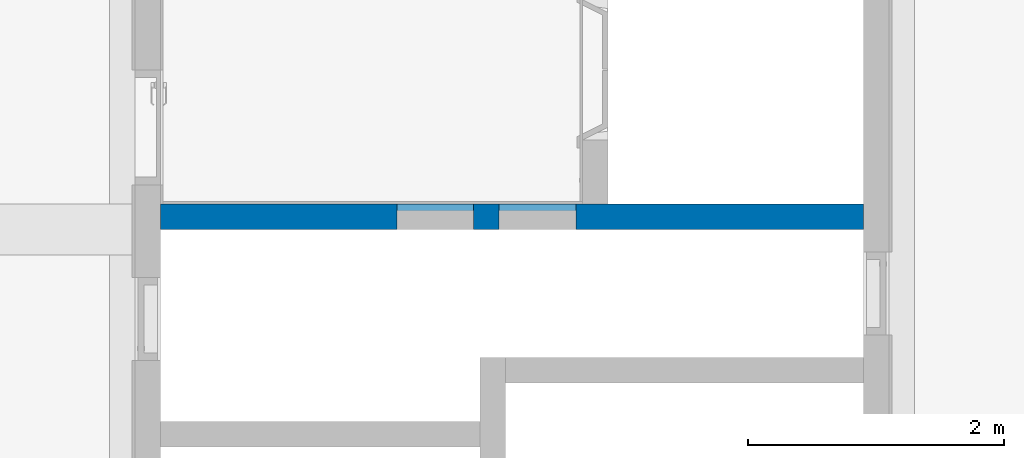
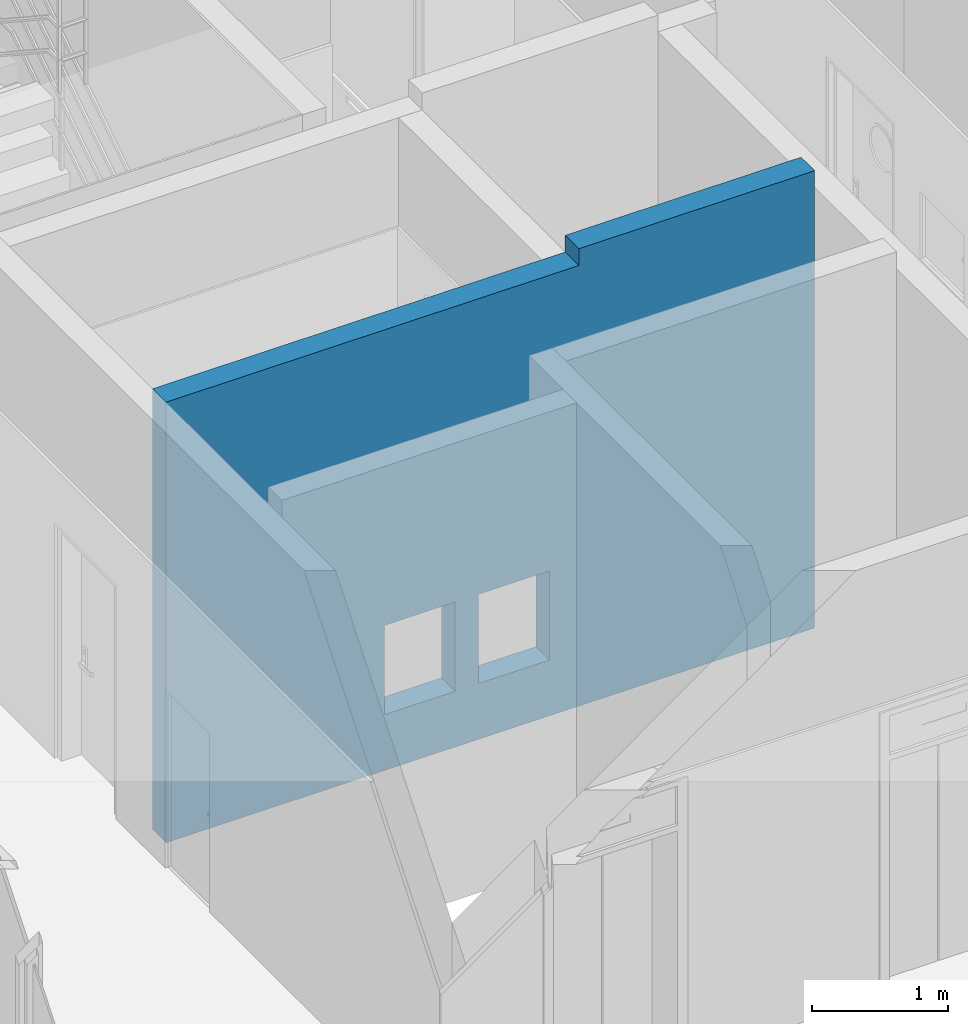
# One storey, part 51 of 76: 1 wall, 2 openings.
"""IFC2X3 building model written with IfcOpenShell, lengths in millimetres."""

from ifc_helpers import new_model, entity, si_unit, converted_unit, derived_unit, direction, frame, frame_2d, origin, place, context, subcontext, project, spatial, polyline, rectangle, extrude, clip, bounded_halfspace, material, layer, layer_set, layer_usage, type_object, element, save


model = new_model("IFC2X3")

# Units and contexts
model_context = context("Model", 3, precision=0.01, world=origin(), true_north=direction((6.123031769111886e-17, 1.0)))
body_context = subcontext(model_context, "Body", "Model", "MODEL_VIEW")
ifc_project = project(units=[si_unit("LENGTHUNIT", "METRE", prefix="MILLI"), si_unit("AREAUNIT", "SQUARE_METRE"), si_unit("VOLUMEUNIT", "CUBIC_METRE"), converted_unit("PLANEANGLEUNIT", "DEGREE", entity("IfcRatioMeasure", 0.017453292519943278), si_unit("PLANEANGLEUNIT", "RADIAN"), dimensions=[0, 0, 0, 0, 0, 0, 0]), si_unit("MASSUNIT", "GRAM", prefix="KILO"), derived_unit("MASSDENSITYUNIT", [(si_unit("MASSUNIT", "GRAM", prefix="KILO"), 1), (si_unit("LENGTHUNIT", "METRE"), -3)]), derived_unit("MOMENTOFINERTIAUNIT", [(si_unit("LENGTHUNIT", "METRE"), 4)]), si_unit("TIMEUNIT", "SECOND"), si_unit("FREQUENCYUNIT", "HERTZ"), si_unit("THERMODYNAMICTEMPERATUREUNIT", "DEGREE_CELSIUS"), derived_unit("THERMALTRANSMITTANCEUNIT", [(si_unit("MASSUNIT", "GRAM", prefix="KILO"), 1), (si_unit("THERMODYNAMICTEMPERATUREUNIT", "KELVIN"), -1), (si_unit("TIMEUNIT", "SECOND"), -3)]), derived_unit("VOLUMETRICFLOWRATEUNIT", [(si_unit("LENGTHUNIT", "METRE"), 3), (si_unit("TIMEUNIT", "SECOND"), -1)]), derived_unit("MASSFLOWRATEUNIT", [(si_unit("MASSUNIT", "GRAM", prefix="KILO"), 1), (si_unit("TIMEUNIT", "SECOND"), -1)]), derived_unit("ROTATIONALFREQUENCYUNIT", [(si_unit("TIMEUNIT", "SECOND"), -1)]), si_unit("ELECTRICCURRENTUNIT", "AMPERE"), si_unit("ELECTRICVOLTAGEUNIT", "VOLT"), si_unit("POWERUNIT", "WATT"), si_unit("FORCEUNIT", "NEWTON", prefix="KILO"), si_unit("ILLUMINANCEUNIT", "LUX"), si_unit("LUMINOUSFLUXUNIT", "LUMEN"), si_unit("LUMINOUSINTENSITYUNIT", "CANDELA"), derived_unit("USERDEFINED", [(si_unit("MASSUNIT", "GRAM", prefix="KILO"), -1), (si_unit("LENGTHUNIT", "METRE"), -2), (si_unit("TIMEUNIT", "SECOND"), 3), (si_unit("LUMINOUSFLUXUNIT", "LUMEN"), 1)]), derived_unit("SOUNDPOWERUNIT", [(si_unit("MASSUNIT", "GRAM", prefix="KILO"), 1), (si_unit("LENGTHUNIT", "METRE"), 2), (si_unit("TIMEUNIT", "SECOND"), -3)]), derived_unit("SOUNDPRESSUREUNIT", [(si_unit("MASSUNIT", "GRAM", prefix="KILO"), 1), (si_unit("LENGTHUNIT", "METRE"), -1), (si_unit("TIMEUNIT", "SECOND"), -2)]), derived_unit("LINEARVELOCITYUNIT", [(si_unit("LENGTHUNIT", "METRE"), 1), (si_unit("TIMEUNIT", "SECOND"), -1)]), si_unit("PRESSUREUNIT", "PASCAL"), derived_unit("USERDEFINED", [(si_unit("LENGTHUNIT", "METRE"), -2), (si_unit("MASSUNIT", "GRAM", prefix="KILO"), 1), (si_unit("TIMEUNIT", "SECOND"), -2)]), derived_unit("LINEARFORCEUNIT", [(si_unit("MASSUNIT", "GRAM", prefix="KILO"), 1), (si_unit("LENGTHUNIT", "METRE"), 1), (si_unit("TIMEUNIT", "SECOND"), -2), (si_unit("LENGTHUNIT", "METRE"), -1)]), derived_unit("PLANARFORCEUNIT", [(si_unit("MASSUNIT", "GRAM", prefix="KILO"), 1), (si_unit("LENGTHUNIT", "METRE"), 1), (si_unit("TIMEUNIT", "SECOND"), -2), (si_unit("LENGTHUNIT", "METRE"), -2)])], contexts=[model_context])

# Site, building, storey
site_placement = place(None, frame((-14167.972527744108, -657.2125860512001, 0.0)))
site = spatial("IfcSite", under=ifc_project, at=site_placement, Name="Default", CompositionType="ELEMENT")
building_placement = place(site_placement, origin())
building = spatial("IfcBuilding", under=site, at=building_placement, Name="Sample Building", CompositionType="ELEMENT")
storey_placement = place(building_placement, frame((0.0, 0.0, 9300.0)))
storey = spatial("IfcBuildingStorey", under=building, at=storey_placement, Name="지상 3층", CompositionType="ELEMENT", Elevation=9300.000000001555)

# Wall, openings
ifc_material = material(Name="KBIMS-콘크리트")
ifc_layer = layer(ifc_material, 200.0)
ifc_layer_set = layer_set([ifc_layer], Name="기본 벽:WA111-철근콘크리트구조 벽 200mm_CW1")
ifc_layer_usage = layer_usage(ifc_layer_set, "AXIS2", "NEGATIVE", 100.0)
wall_type = type_object("IfcWallType", Name="기본 벽:WA111-철근콘크리트구조 벽 200mm_CW1", PredefinedType="STANDARD", material=ifc_layer_set)
wall_placement = place(storey_placement, frame((30267.963761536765, 20057.212307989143, -2.297844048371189e-09)))
wall = element("IfcWallStandardCase", 1, at=wall_placement, inside=storey, type_object=wall_type, material=ifc_layer_usage, Name="기본 벽:WA111-철근콘크리트구조 벽 200mm_CW1", ObjectType="기본 벽:WA111-철근콘크리트구조 벽 200mm_CW1", context=body_context, shape_type="Clipping", body=[
    clip(clip(extrude(rectangle(XDim=5500.008729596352, YDim=199.99999999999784, at=frame_2d((2750.004364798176, -1.2079226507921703e-13), x_axis=(-1.0, 0.0))), origin(), (0.0, 0.0, 1.0), 4100.000000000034), bounded_halfspace(frame((3500.0087295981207, -100.0, 3950.0), z_axis=(0.0, 0.0, -1.0), x_axis=(1.0, 0.0, 0.0)), True, frame((3500.0087295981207, -100.0, 3950.0), z_axis=(0.0, 0.0, -1.0), x_axis=(1.0, 0.0, 0.0)), polyline([(0.0, 0.0), (-1066802.660781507, -1.1521706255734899e-09), (-1066802.6607815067, -60960.0), (-60960.0, -60960.0), (0.0, -60960.0), (0.0, 0.0)]))), bounded_halfspace(frame((3500.0087295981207, 100.0, 3950.0), z_axis=(1.0, 0.0, 0.0), x_axis=(0.0, 0.0, 1.0)), True, frame((3500.0087295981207, 100.0, 3950.0), z_axis=(1.0, 0.0, 0.0), x_axis=(0.0, 0.0, 1.0)), polyline([(0.0, -1.321097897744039e-09), (45720.0, -1.321097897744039e-09), (45720.0, 60960.0), (0.0, 60960.0), (0.0, -1.321097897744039e-09)]))),
])
opening_1_placement = place(wall_placement, frame((2450.0085491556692, 100.0, 500.0)))
element("IfcOpeningElement", 2, at=opening_1_placement, cuts=wall, Name="WD733-그릴창(알루미늄):WD733-그릴창(알루미늄)_600x800mm:1", ObjectType="Opening", context=body_context, shape_type="SweptSolid", body=[
    extrude(rectangle(XDim=800.0000000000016, YDim=600.0000000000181, at=frame_2d((400.00000000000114, 300.0000000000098), x_axis=(-1.0, 0.0))), frame((0.0, 0.0, 0.0), z_axis=(0.0, -1.0, 0.0), x_axis=(0.0, 0.0, 1.0)), (0.0, 0.0, 1.0), 200.0),
])
opening_2_placement = place(wall_placement, frame((3250.0088198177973, 100.0, 500.0)))
element("IfcOpeningElement", 3, at=opening_2_placement, cuts=wall, Name="WD733-그릴창(알루미늄):WD733-그릴창(알루미늄)_600x800mm:1", ObjectType="Opening", context=body_context, shape_type="SweptSolid", body=[
    extrude(rectangle(XDim=800.0000000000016, YDim=600.0000000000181, at=frame_2d((400.00000000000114, 300.0000000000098), x_axis=(-1.0, 0.0))), frame((0.0, 0.0, 0.0), z_axis=(0.0, -1.0, 0.0), x_axis=(0.0, 0.0, 1.0)), (0.0, 0.0, 1.0), 200.0),
])

save(model, "model.ifc")
